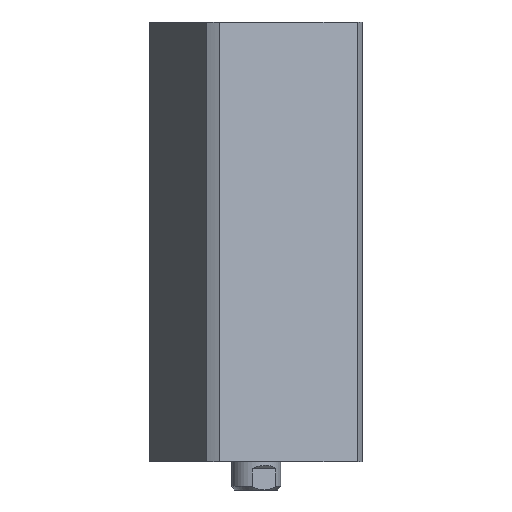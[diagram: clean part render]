
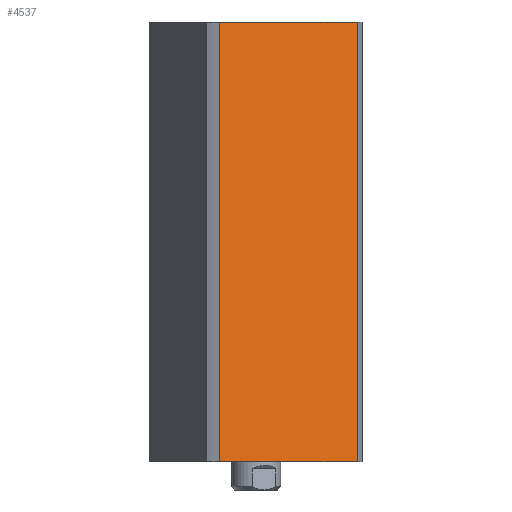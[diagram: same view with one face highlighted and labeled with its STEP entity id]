
A CAD part, front view. The second image highlights one B-rep face of the part: STEP entity #4537.
In plain terms, the highlighted planar face has unit normal (0.383, -0.924, 0) as drawn and (1, 0, 0) by its records, which use the part's own axes.
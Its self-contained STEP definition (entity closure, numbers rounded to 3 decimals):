
#13 = VERTEX_POINT ( 'NONE', #6093 ) ;
#107 = VECTOR ( 'NONE', #6628, 1000. ) ;
#1128 = VECTOR ( 'NONE', #6848, 1000. ) ;
#1463 = CARTESIAN_POINT ( 'NONE',  ( 24., 21.166, 0. ) ) ;
#1539 = LINE ( 'NONE', #6853, #7019 ) ;
#1825 = AXIS2_PLACEMENT_3D ( 'NONE', #5664, #6304, #2546 ) ;
#2073 = CARTESIAN_POINT ( 'NONE',  ( 24., -21.166, 125. ) ) ;
#2157 = EDGE_CURVE ( 'NONE', #5942, #2590, #4707, .T. ) ;
#2461 = EDGE_CURVE ( 'NONE', #13, #2631, #1539, .T. ) ;
#2546 = DIRECTION ( 'NONE',  ( 0., -1., 0. ) ) ;
#2590 = VERTEX_POINT ( 'NONE', #2073 ) ;
#2631 = VERTEX_POINT ( 'NONE', #1463 ) ;
#2891 = CARTESIAN_POINT ( 'NONE',  ( 24., 24., 0. ) ) ;
#3028 = VECTOR ( 'NONE', #5970, 1000. ) ;
#3116 = EDGE_CURVE ( 'NONE', #2590, #13, #6151, .T. ) ;
#3150 = CARTESIAN_POINT ( 'NONE',  ( 24., -21.166, 0. ) ) ;
#3789 = EDGE_LOOP ( 'NONE', ( #8060, #7037, #6652, #7133 ) ) ;
#4537 = ADVANCED_FACE ( 'NONE', ( #7492 ), #7495, .F. ) ;
#4707 = LINE ( 'NONE', #6236, #3028 ) ;
#4936 = LINE ( 'NONE', #2891, #107 ) ;
#5009 = DIRECTION ( 'NONE',  ( 0., 0., -1. ) ) ;
#5664 = CARTESIAN_POINT ( 'NONE',  ( 24., 24., 125. ) ) ;
#5942 = VERTEX_POINT ( 'NONE', #3150 ) ;
#5970 = DIRECTION ( 'NONE',  ( 0., 0., 1. ) ) ;
#6093 = CARTESIAN_POINT ( 'NONE',  ( 24., 21.166, 125. ) ) ;
#6151 = LINE ( 'NONE', #6234, #1128 ) ;
#6221 = EDGE_CURVE ( 'NONE', #5942, #2631, #4936, .T. ) ;
#6234 = CARTESIAN_POINT ( 'NONE',  ( 24., 24., 125. ) ) ;
#6236 = CARTESIAN_POINT ( 'NONE',  ( 24., -21.166, -175. ) ) ;
#6304 = DIRECTION ( 'NONE',  ( -1., 0., 0. ) ) ;
#6628 = DIRECTION ( 'NONE',  ( 0., 1., 0. ) ) ;
#6652 = ORIENTED_EDGE ( 'NONE', *, *, #2461, .F. ) ;
#6848 = DIRECTION ( 'NONE',  ( 0., 1., 0. ) ) ;
#6853 = CARTESIAN_POINT ( 'NONE',  ( 24., 21.166, -175. ) ) ;
#7019 = VECTOR ( 'NONE', #5009, 1000. ) ;
#7037 = ORIENTED_EDGE ( 'NONE', *, *, #6221, .T. ) ;
#7133 = ORIENTED_EDGE ( 'NONE', *, *, #3116, .F. ) ;
#7492 = FACE_OUTER_BOUND ( 'NONE', #3789, .T. ) ;
#7495 = PLANE ( 'NONE',  #1825 ) ;
#8060 = ORIENTED_EDGE ( 'NONE', *, *, #2157, .F. ) ;
